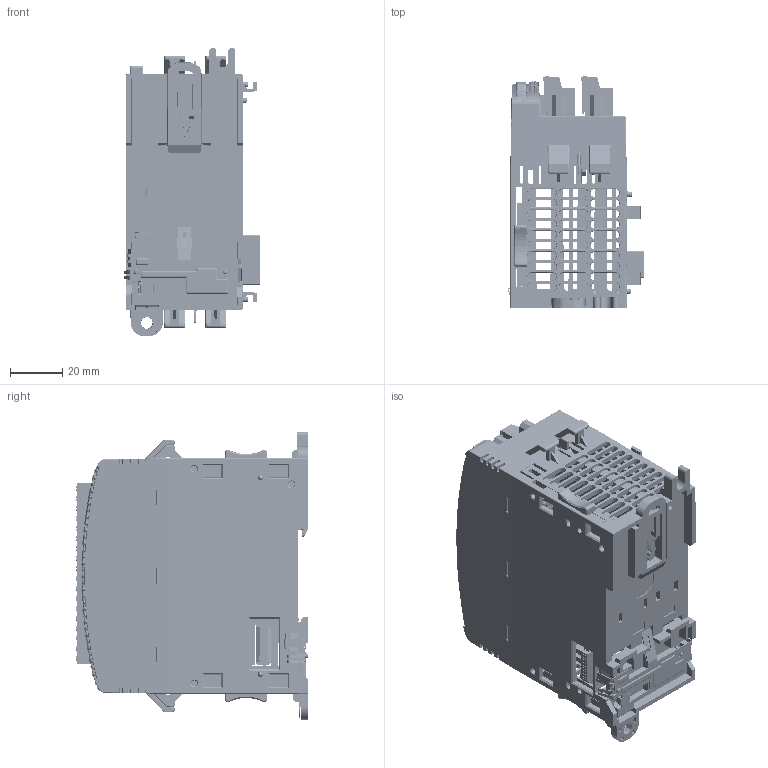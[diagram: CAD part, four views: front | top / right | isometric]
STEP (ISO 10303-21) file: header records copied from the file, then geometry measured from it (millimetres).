
FILE_DESCRIPTION (( 'STEP AP203' ), '1' );
FILE_NAME ('2085-Ox32.STEP', '2021-12-30T00:49:09', ( '' ), ( '' ), 'SwSTEP 2.0', 'SolidWorks 2021', '' );
FILE_SCHEMA (( 'CONFIG_CONTROL_DESIGN' ));
Products named in the file (1): 2085-Ox32
Bounding box: 52.2 x 88.8 x 110 mm (x, y, z)
Surface area: 89450.1 mm2 (no closed solid volume)
Topology: 0 solids, 114 shells, 10452 faces, 28821 edges, 18748 vertices
Faces by surface type: plane 7821, bspline 1458, cylinder 1078, cone 72, sphere 18, torus 5
Entity records: 407385 total; most frequent: CARTESIAN_POINT 169991, ORIENTED_EDGE 57574, DIRECTION 35405, EDGE_CURVE 28793, VERTEX_POINT 18748, LINE 14957, VECTOR 14957, B_SPLINE_CURVE_WITH_KNOTS 12038
